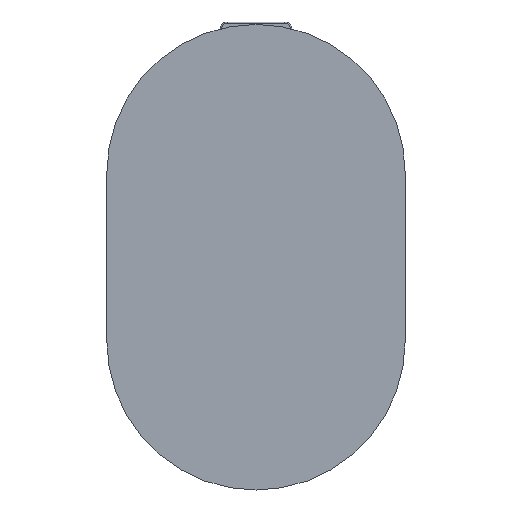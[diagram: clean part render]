
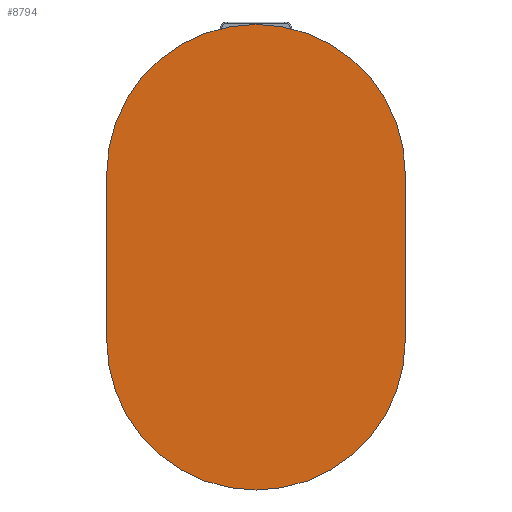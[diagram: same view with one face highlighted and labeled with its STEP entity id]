
A CAD part, front view. The second image highlights one B-rep face of the part: STEP entity #8794.
In plain terms, the highlighted planar face has unit normal (0, -1, 0).
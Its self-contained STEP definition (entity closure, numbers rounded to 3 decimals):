
#2547=DIRECTION('',(0.,0.,1.));
#2548=VECTOR('',#2547,70.);
#2549=CARTESIAN_POINT('',(-62.5,0.,-53.5));
#2550=LINE('',#2549,#2548);
#2551=CARTESIAN_POINT('',(0.,0.,16.5));
#2552=DIRECTION('',(0.,1.,0.));
#2553=DIRECTION('',(-1.,0.,0.));
#2554=AXIS2_PLACEMENT_3D('',#2551,#2552,#2553);
#2556=DIRECTION('',(0.,0.,-1.));
#2557=VECTOR('',#2556,70.);
#2558=CARTESIAN_POINT('',(62.5,0.,16.5));
#2559=LINE('',#2558,#2557);
#2560=CARTESIAN_POINT('',(0.,0.,-53.5));
#2561=DIRECTION('',(0.,1.,0.));
#2562=DIRECTION('',(1.,0.,0.));
#2563=AXIS2_PLACEMENT_3D('',#2560,#2561,#2562);
#5868=CARTESIAN_POINT('',(-62.5,0.,-53.5));
#5869=CARTESIAN_POINT('',(-62.5,0.,16.5));
#5870=VERTEX_POINT('',#5868);
#5871=VERTEX_POINT('',#5869);
#5872=CARTESIAN_POINT('',(62.5,0.,16.5));
#5873=CARTESIAN_POINT('',(62.5,0.,-53.5));
#5874=VERTEX_POINT('',#5872);
#5875=VERTEX_POINT('',#5873);
#8783=CARTESIAN_POINT('',(0.,0.,-21.));
#8784=DIRECTION('',(0.,1.,0.));
#8785=DIRECTION('',(1.,0.,0.));
#8786=AXIS2_PLACEMENT_3D('',#8783,#8784,#8785);
#8787=PLANE('',#8786);
#8788=ORIENTED_EDGE('',*,*,#8750,.T.);
#8789=ORIENTED_EDGE('',*,*,#8764,.T.);
#8790=ORIENTED_EDGE('',*,*,#8777,.T.);
#8791=ORIENTED_EDGE('',*,*,#8735,.T.);
#8792=EDGE_LOOP('',(#8788,#8789,#8790,#8791));
#8793=FACE_OUTER_BOUND('',#8792,.F.);
#8794=ADVANCED_FACE('',(#8793),#8787,.F.);
#2555=CIRCLE('',#2554,62.5);
#2564=CIRCLE('',#2563,62.5);
#8735=EDGE_CURVE('',#5875,#5870,#2564,.T.);
#8750=EDGE_CURVE('',#5870,#5871,#2550,.T.);
#8764=EDGE_CURVE('',#5871,#5874,#2555,.T.);
#8777=EDGE_CURVE('',#5874,#5875,#2559,.T.);
